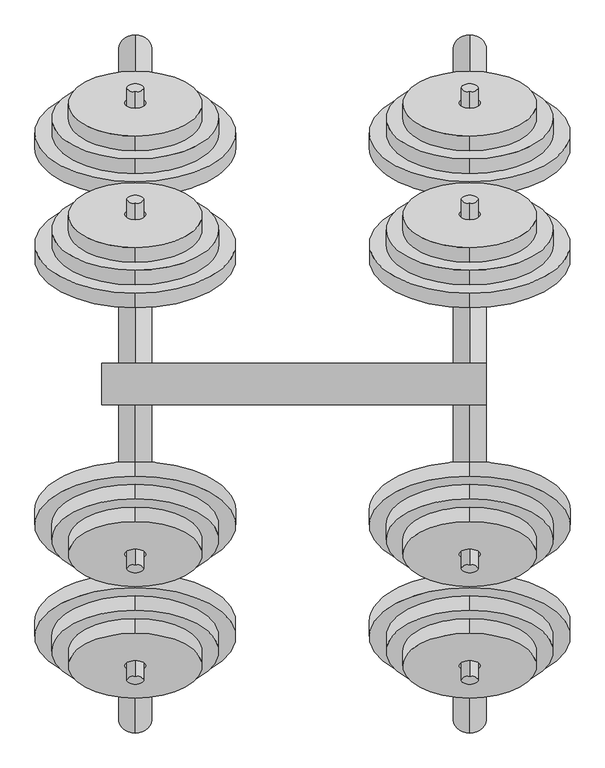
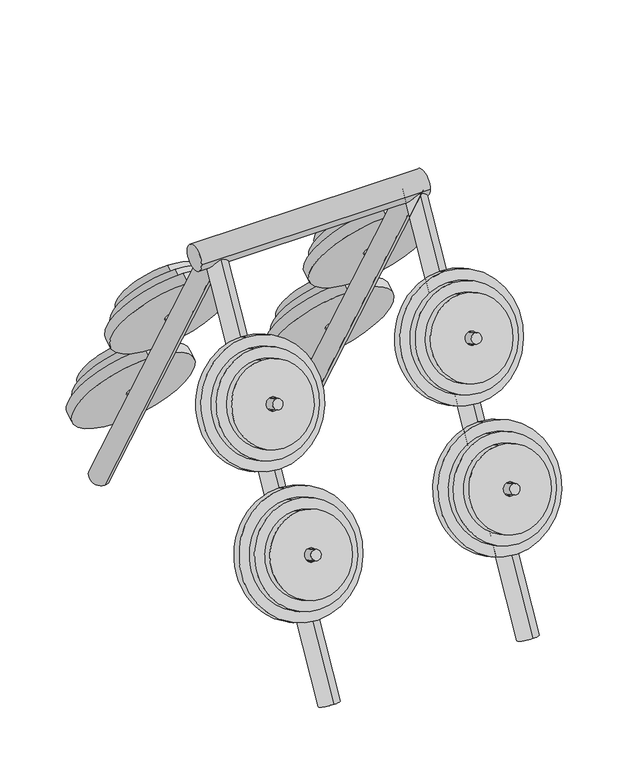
"""IFC4 building model written with IfcOpenShell, lengths in millimetres: proxy geometry, Weights-Multiple : Weights-Multiple."""

from ifc_helpers import new_model, si_unit, point, frame, frame_2d, origin, place, context, project, spatial, circle_curve, trimmed, segment, composite_curve, outline, extrude, source, transform, mapped, element, save


def generic_models_a89b188b(model_context):
    return source(origin(), model_context, "Body", "SweptSolid", [
        extrude(outline(composite_curve([segment(trimmed(circle_curve(frame_2d((0.0, -101.5999999)), 101.6), [point((0.0, -203.2))], [point((0.0, 0.0))], False, "CARTESIAN"), True, "CONTINUOUS"), segment(trimmed(circle_curve(frame_2d((0.0, -101.5999999)), 101.6), [point((0.0, 0.0))], [point((0.0, -203.2))], False, "CARTESIAN"), True, "CONTINUOUS")], self_intersect=False), holes=[composite_curve([segment(trimmed(circle_curve(frame_2d((0.0, -101.5999999)), 15.875), [point((0.0, -117.475))], [point((0.0, -85.725))], True, "CARTESIAN"), True, "CONTINUOUS"), segment(trimmed(circle_curve(frame_2d((0.0, -101.5999999)), 15.875), [point((0.0, -85.725))], [point((0.0, -117.475))], True, "CARTESIAN"), True, "CONTINUOUS")], self_intersect=False)]), frame((508.0, -356.2616179, 430.0344911), z_axis=(0.0, -0.8741572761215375, 0.48564293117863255), x_axis=(1.0, 0.0, 0.0)), (0.0, 0.0, 1.0), 25.4),
        extrude(outline(composite_curve([segment(trimmed(circle_curve(frame_2d((0.0, -127.0)), 127.0), [point((0.0, -254.0))], [point((0.0, 0.0))], False, "CARTESIAN"), True, "CONTINUOUS"), segment(trimmed(circle_curve(frame_2d((0.0, -127.0)), 127.0), [point((0.0, 0.0))], [point((0.0, -254.0))], False, "CARTESIAN"), True, "CONTINUOUS")], self_intersect=False), holes=[composite_curve([segment(trimmed(circle_curve(frame_2d((0.0, -127.0)), 15.875), [point((0.0, -142.875))], [point((0.0, -111.125))], True, "CARTESIAN"), True, "CONTINUOUS"), segment(trimmed(circle_curve(frame_2d((0.0, -127.0)), 15.875), [point((0.0, -111.125))], [point((0.0, -142.875))], True, "CARTESIAN"), True, "CONTINUOUS")], self_intersect=False)]), frame((508.0, -321.7226926, 439.9027555), z_axis=(0.0, -0.8741572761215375, 0.48564293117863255), x_axis=(1.0, 0.0, 0.0)), (0.0, 0.0, 1.0), 25.4),
        extrude(outline(composite_curve([segment(trimmed(circle_curve(frame_2d((0.0, -152.4)), 152.4), [point((0.0, -304.8))], [point((0.0, 0.0))], False, "CARTESIAN"), True, "CONTINUOUS"), segment(trimmed(circle_curve(frame_2d((0.0, -152.4)), 152.4), [point((0.0, 0.0))], [point((0.0, -304.8))], False, "CARTESIAN"), True, "CONTINUOUS")], self_intersect=False), holes=[composite_curve([segment(trimmed(circle_curve(frame_2d((0.0, -152.4)), 15.875), [point((0.0, -168.275))], [point((0.0, -136.525))], True, "CARTESIAN"), True, "CONTINUOUS"), segment(trimmed(circle_curve(frame_2d((0.0, -152.4)), 15.875), [point((0.0, -136.525))], [point((0.0, -168.275))], True, "CARTESIAN"), True, "CONTINUOUS")], self_intersect=False)]), frame((508.0, -287.1837674, 449.7710199), z_axis=(0.0, -0.8741572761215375, 0.48564293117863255), x_axis=(1.0, 0.0, 0.0)), (0.0, 0.0, 1.0), 25.4),
        extrude(outline(composite_curve([segment(trimmed(circle_curve(frame_2d((0.0, -101.5999999)), 101.6), [point((0.0, -203.2))], [point((0.0, 0.0))], False, "CARTESIAN"), True, "CONTINUOUS"), segment(trimmed(circle_curve(frame_2d((0.0, -101.5999999)), 101.6), [point((0.0, 0.0))], [point((0.0, -203.2))], False, "CARTESIAN"), True, "CONTINUOUS")], self_intersect=False), holes=[composite_curve([segment(trimmed(circle_curve(frame_2d((0.0, -101.5999999)), 15.875), [point((0.0, -117.475))], [point((0.0, -85.725))], True, "CARTESIAN"), True, "CONTINUOUS"), segment(trimmed(circle_curve(frame_2d((0.0, -101.5999999)), 15.875), [point((0.0, -85.725))], [point((0.0, -117.475))], True, "CARTESIAN"), True, "CONTINUOUS")], self_intersect=False)]), frame((508.0, -186.9282846, 734.8344911), z_axis=(0.0, -0.8741572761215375, 0.48564293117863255), x_axis=(1.0, 0.0, 0.0)), (0.0, 0.0, 1.0), 25.4),
        extrude(outline(composite_curve([segment(trimmed(circle_curve(frame_2d((0.0, -127.0)), 127.0), [point((0.0, -254.0))], [point((0.0, 0.0))], False, "CARTESIAN"), True, "CONTINUOUS"), segment(trimmed(circle_curve(frame_2d((0.0, -127.0)), 127.0), [point((0.0, 0.0))], [point((0.0, -254.0))], False, "CARTESIAN"), True, "CONTINUOUS")], self_intersect=False), holes=[composite_curve([segment(trimmed(circle_curve(frame_2d((0.0, -127.0)), 15.875), [point((0.0, -142.875))], [point((0.0, -111.125))], True, "CARTESIAN"), True, "CONTINUOUS"), segment(trimmed(circle_curve(frame_2d((0.0, -127.0)), 15.875), [point((0.0, -111.125))], [point((0.0, -142.875))], True, "CARTESIAN"), True, "CONTINUOUS")], self_intersect=False)]), frame((508.0, -152.3893593, 744.7027555), z_axis=(0.0, -0.8741572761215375, 0.48564293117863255), x_axis=(1.0, 0.0, 0.0)), (0.0, 0.0, 1.0), 25.4),
        extrude(outline(composite_curve([segment(trimmed(circle_curve(frame_2d((0.0, -152.4)), 152.4), [point((0.0, -304.8000001))], [point((0.0, 0.0))], False, "CARTESIAN"), True, "CONTINUOUS"), segment(trimmed(circle_curve(frame_2d((0.0, -152.4)), 152.4), [point((0.0, 0.0))], [point((0.0, -304.8000001))], False, "CARTESIAN"), True, "CONTINUOUS")], self_intersect=False), holes=[composite_curve([segment(trimmed(circle_curve(frame_2d((0.0, -152.4)), 15.875), [point((0.0, -168.2750001))], [point((0.0, -136.5250001))], True, "CARTESIAN"), True, "CONTINUOUS"), segment(trimmed(circle_curve(frame_2d((0.0, -152.4)), 15.875), [point((0.0, -136.5250001))], [point((0.0, -168.2750001))], True, "CARTESIAN"), True, "CONTINUOUS")], self_intersect=False)]), frame((508.0, -117.850434, 754.5710199), z_axis=(0.0, -0.8741572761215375, 0.48564293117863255), x_axis=(1.0, 0.0, 0.0)), (0.0, 0.0, 1.0), 25.4),
        extrude(outline(composite_curve([segment(trimmed(circle_curve(frame_2d((0.0, 12.7)), 12.7), [point((0.0, 0.0))], [point((0.0, 25.4))], False, "CARTESIAN"), True, "CONTINUOUS"), segment(trimmed(circle_curve(frame_2d((0.0, 12.7)), 12.7), [point((0.0, 25.4))], [point((0.0, 0.0))], False, "CARTESIAN"), True, "CONTINUOUS")], self_intersect=False)), frame((508.0, -344.8343319, 293.6982026), z_axis=(0.0, -0.8741572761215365, 0.4856429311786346), x_axis=(1.0, 0.0, 0.0)), (0.0, 0.0, 1.0), 127.0),
        extrude(outline(composite_curve([segment(trimmed(circle_curve(frame_2d((0.0, 12.6766186)), 12.6766186), [point((0.0, 0.0))], [point((0.0, 25.3532372))], False, "CARTESIAN"), True, "CONTINUOUS"), segment(trimmed(circle_curve(frame_2d((0.0, 12.6766186)), 12.6766186), [point((0.0, 25.3532372))], [point((0.0, 0.0))], False, "CARTESIAN"), True, "CONTINUOUS")], self_intersect=False)), frame((508.0, -175.4896435, 598.5186416), z_axis=(0.0, -0.8741572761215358, 0.4856429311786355), x_axis=(1.0, 0.0, 0.0)), (0.0, 0.0, 1.0), 127.0),
        extrude(outline(composite_curve([segment(trimmed(circle_curve(frame_2d((0.0, 25.2855633)), 25.2855633), [point((0.0, 50.5711266))], [point((0.0, 0.0))], False, "CARTESIAN"), True, "CONTINUOUS"), segment(trimmed(circle_curve(frame_2d((0.0, 25.2855633)), 25.2855633), [point((0.0, 0.0))], [point((0.0, 50.5711266))], False, "CARTESIAN"), True, "CONTINUOUS")], self_intersect=False)), frame((508.0, -530.1035591, 12.2797551), z_axis=(0.0, 0.48564293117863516, 0.874157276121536), x_axis=(1.0, 0.0, 0.0)), (0.0, 0.0, 1.0), 1046.0360223),
        extrude(outline(composite_curve([segment(trimmed(circle_curve(frame_2d((0.0, -101.6)), 101.6), [point((0.0, -203.2))], [point((0.0, 0.0))], False, "CARTESIAN"), True, "CONTINUOUS"), segment(trimmed(circle_curve(frame_2d((0.0, -101.6)), 101.6), [point((0.0, 0.0))], [point((0.0, -203.2))], False, "CARTESIAN"), True, "CONTINUOUS")], self_intersect=False), holes=[composite_curve([segment(trimmed(circle_curve(frame_2d((0.0, -99.2545749)), 16.0172479), [point((0.0, -115.2718228))], [point((0.0, -83.237327))], True, "CARTESIAN"), True, "CONTINUOUS"), segment(trimmed(circle_curve(frame_2d((0.0, -99.2545749)), 16.0172479), [point((0.0, -83.237327))], [point((0.0, -115.2718228))], True, "CARTESIAN"), True, "CONTINUOUS")], self_intersect=False)]), frame((508.0, 452.8645476, 256.1492177), z_axis=(0.0, 0.8741572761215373, 0.4856429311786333), x_axis=(1.0, 0.0, 0.0)), (0.0, 0.0, 1.0), 25.4),
        extrude(outline(composite_curve([segment(trimmed(circle_curve(frame_2d((0.0, -127.0)), 127.0), [point((0.0, -254.0))], [point((0.0, 0.0))], False, "CARTESIAN"), True, "CONTINUOUS"), segment(trimmed(circle_curve(frame_2d((0.0, -127.0)), 127.0), [point((0.0, 0.0))], [point((0.0, -254.0))], False, "CARTESIAN"), True, "CONTINUOUS")], self_intersect=False), holes=[composite_curve([segment(trimmed(circle_curve(frame_2d((0.0, -124.6545747)), 16.0172479), [point((0.0, -140.6718226))], [point((0.0, -108.6373269))], True, "CARTESIAN"), True, "CONTINUOUS"), segment(trimmed(circle_curve(frame_2d((0.0, -124.6545747)), 16.0172479), [point((0.0, -108.6373269))], [point((0.0, -140.6718226))], True, "CARTESIAN"), True, "CONTINUOUS")], self_intersect=False)]), frame((508.0, 442.9962832, 221.6102925), z_axis=(0.0, 0.8741572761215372, 0.4856429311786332), x_axis=(1.0, 0.0, 0.0)), (0.0, 0.0, 1.0), 25.4),
        extrude(outline(composite_curve([segment(trimmed(circle_curve(frame_2d((0.0, -152.4)), 152.4), [point((0.0, -304.8))], [point((0.0, 0.0))], False, "CARTESIAN"), True, "CONTINUOUS"), segment(trimmed(circle_curve(frame_2d((0.0, -152.4)), 152.4), [point((0.0, 0.0))], [point((0.0, -304.8))], False, "CARTESIAN"), True, "CONTINUOUS")], self_intersect=False), holes=[composite_curve([segment(trimmed(circle_curve(frame_2d((0.0, -150.0545748)), 16.0172479), [point((0.0, -166.0718227))], [point((0.0, -134.0373269))], True, "CARTESIAN"), True, "CONTINUOUS"), segment(trimmed(circle_curve(frame_2d((0.0, -150.0545748)), 16.0172479), [point((0.0, -134.0373269))], [point((0.0, -166.0718227))], True, "CARTESIAN"), True, "CONTINUOUS")], self_intersect=False)]), frame((508.0, 433.1280188, 187.0713672), z_axis=(0.0, 0.8741572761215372, 0.4856429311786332), x_axis=(1.0, 0.0, 0.0)), (0.0, 0.0, 1.0), 25.4),
        extrude(outline(composite_curve([segment(trimmed(circle_curve(frame_2d((0.0, -101.6)), 101.6), [point((0.0, -203.2))], [point((0.0, 0.0))], False, "CARTESIAN"), True, "CONTINUOUS"), segment(trimmed(circle_curve(frame_2d((0.0, -101.6)), 101.6), [point((0.0, 0.0))], [point((0.0, -203.2))], False, "CARTESIAN"), True, "CONTINUOUS")], self_intersect=False), holes=[composite_curve([segment(trimmed(circle_curve(frame_2d((0.0, -99.2545748)), 16.0172479), [point((0.0, -115.2718227))], [point((0.0, -83.2373269))], True, "CARTESIAN"), True, "CONTINUOUS"), segment(trimmed(circle_curve(frame_2d((0.0, -99.2545748)), 16.0172479), [point((0.0, -83.2373269))], [point((0.0, -115.2718227))], True, "CARTESIAN"), True, "CONTINUOUS")], self_intersect=False)]), frame((508.0, 283.5312142, 560.9492177), z_axis=(0.0, 0.8741572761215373, 0.4856429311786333), x_axis=(1.0, 0.0, 0.0)), (0.0, 0.0, 1.0), 25.4),
        extrude(outline(composite_curve([segment(trimmed(circle_curve(frame_2d((0.0, -127.0)), 127.0), [point((0.0, -254.0))], [point((0.0, 0.0))], False, "CARTESIAN"), True, "CONTINUOUS"), segment(trimmed(circle_curve(frame_2d((0.0, -127.0)), 127.0), [point((0.0, 0.0))], [point((0.0, -254.0))], False, "CARTESIAN"), True, "CONTINUOUS")], self_intersect=False), holes=[composite_curve([segment(trimmed(circle_curve(frame_2d((0.0, -124.6545747)), 16.0172479), [point((0.0, -140.6718226))], [point((0.0, -108.6373269))], True, "CARTESIAN"), True, "CONTINUOUS"), segment(trimmed(circle_curve(frame_2d((0.0, -124.6545747)), 16.0172479), [point((0.0, -108.6373269))], [point((0.0, -140.6718226))], True, "CARTESIAN"), True, "CONTINUOUS")], self_intersect=False)]), frame((508.0, 273.6629499, 526.4102925), z_axis=(0.0, 0.8741572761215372, 0.4856429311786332), x_axis=(1.0, 0.0, 0.0)), (0.0, 0.0, 1.0), 25.4),
        extrude(outline(composite_curve([segment(trimmed(circle_curve(frame_2d((0.0, -152.4)), 152.4), [point((0.0, -304.8))], [point((0.0, 0.0))], False, "CARTESIAN"), True, "CONTINUOUS"), segment(trimmed(circle_curve(frame_2d((0.0, -152.4)), 152.4), [point((0.0, 0.0))], [point((0.0, -304.8))], False, "CARTESIAN"), True, "CONTINUOUS")], self_intersect=False), holes=[composite_curve([segment(trimmed(circle_curve(frame_2d((0.0, -150.0545748)), 16.0172479), [point((0.0, -166.0718227))], [point((0.0, -134.0373269))], True, "CARTESIAN"), True, "CONTINUOUS"), segment(trimmed(circle_curve(frame_2d((0.0, -150.0545748)), 16.0172479), [point((0.0, -134.0373269))], [point((0.0, -166.0718227))], True, "CARTESIAN"), True, "CONTINUOUS")], self_intersect=False)]), frame((508.0, 263.7946855, 491.8713672), z_axis=(0.0, 0.8741572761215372, 0.4856429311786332), x_axis=(1.0, 0.0, 0.0)), (0.0, 0.0, 1.0), 25.4),
        extrude(outline(composite_curve([segment(trimmed(circle_curve(frame_2d((0.0, 12.7)), 12.7), [point((0.0, 25.4))], [point((0.0, 0.0))], False, "CARTESIAN"), True, "CONTINUOUS"), segment(trimmed(circle_curve(frame_2d((0.0, 12.7)), 12.7), [point((0.0, 0.0))], [point((0.0, 25.4))], False, "CARTESIAN"), True, "CONTINUOUS")], self_intersect=False)), frame((508.0, 332.4990014, 315.9017974), z_axis=(0.0, 0.8741572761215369, 0.48564293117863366), x_axis=(1.0, 0.0, 0.0)), (0.0, 0.0, 1.0), 127.0),
        extrude(outline(composite_curve([segment(trimmed(circle_curve(frame_2d((0.0, 12.6766186)), 12.6766186), [point((0.0, 25.3532372))], [point((0.0, 0.0))], False, "CARTESIAN"), True, "CONTINUOUS"), segment(trimmed(circle_curve(frame_2d((0.0, 12.6766186)), 12.6766186), [point((0.0, 0.0))], [point((0.0, 25.3532372))], False, "CARTESIAN"), True, "CONTINUOUS")], self_intersect=False)), frame((508.0, 163.1770231, 620.6813584), z_axis=(0.0, 0.8741572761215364, 0.48564293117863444), x_axis=(1.0, 0.0, 0.0)), (0.0, 0.0, 1.0), 127.0),
        extrude(outline(composite_curve([segment(trimmed(circle_curve(frame_2d((0.0, 25.2855633)), 25.2855633), [point((0.0, 0.0))], [point((0.0, 50.5711266))], False, "CARTESIAN"), True, "CONTINUOUS"), segment(trimmed(circle_curve(frame_2d((0.0, 25.2855633)), 25.2855633), [point((0.0, 50.5711266))], [point((0.0, 0.0))], False, "CARTESIAN"), True, "CONTINUOUS")], self_intersect=False)), frame((508.0, 485.8964409, -12.2797551), z_axis=(0.0, -0.48564293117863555, 0.8741572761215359), x_axis=(1.0, 0.0, 0.0)), (0.0, 0.0, 1.0), 1046.0360223),
        extrude(outline(composite_curve([segment(trimmed(circle_curve(frame_2d((0.0, -101.5999999)), 101.6), [point((0.0, -203.2))], [point((0.0, 0.0))], False, "CARTESIAN"), True, "CONTINUOUS"), segment(trimmed(circle_curve(frame_2d((0.0, -101.5999999)), 101.6), [point((0.0, 0.0))], [point((0.0, -203.2))], False, "CARTESIAN"), True, "CONTINUOUS")], self_intersect=False), holes=[composite_curve([segment(trimmed(circle_curve(frame_2d((0.0, -101.5999999)), 15.875), [point((0.0, -117.475))], [point((0.0, -85.725))], True, "CARTESIAN"), True, "CONTINUOUS"), segment(trimmed(circle_curve(frame_2d((0.0, -101.5999999)), 15.875), [point((0.0, -85.725))], [point((0.0, -117.475))], True, "CARTESIAN"), True, "CONTINUOUS")], self_intersect=False)]), frame((0.0, -356.2616179, 430.0344911), z_axis=(0.0, -0.8741572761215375, 0.48564293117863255), x_axis=(1.0, 0.0, 0.0)), (0.0, 0.0, 1.0), 25.4),
        extrude(outline(composite_curve([segment(trimmed(circle_curve(frame_2d((0.0, -127.0)), 127.0), [point((0.0, -254.0))], [point((0.0, 0.0))], False, "CARTESIAN"), True, "CONTINUOUS"), segment(trimmed(circle_curve(frame_2d((0.0, -127.0)), 127.0), [point((0.0, 0.0))], [point((0.0, -254.0))], False, "CARTESIAN"), True, "CONTINUOUS")], self_intersect=False), holes=[composite_curve([segment(trimmed(circle_curve(frame_2d((0.0, -127.0)), 15.875), [point((0.0, -142.875))], [point((0.0, -111.125))], True, "CARTESIAN"), True, "CONTINUOUS"), segment(trimmed(circle_curve(frame_2d((0.0, -127.0)), 15.875), [point((0.0, -111.125))], [point((0.0, -142.875))], True, "CARTESIAN"), True, "CONTINUOUS")], self_intersect=False)]), frame((0.0, -321.7226926, 439.9027555), z_axis=(0.0, -0.8741572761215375, 0.48564293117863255), x_axis=(1.0, 0.0, 0.0)), (0.0, 0.0, 1.0), 25.4),
        extrude(outline(composite_curve([segment(trimmed(circle_curve(frame_2d((0.0, -152.4)), 152.4), [point((0.0, -304.8))], [point((0.0, 0.0))], False, "CARTESIAN"), True, "CONTINUOUS"), segment(trimmed(circle_curve(frame_2d((0.0, -152.4)), 152.4), [point((0.0, 0.0))], [point((0.0, -304.8))], False, "CARTESIAN"), True, "CONTINUOUS")], self_intersect=False), holes=[composite_curve([segment(trimmed(circle_curve(frame_2d((0.0, -152.4)), 15.875), [point((0.0, -168.275))], [point((0.0, -136.525))], True, "CARTESIAN"), True, "CONTINUOUS"), segment(trimmed(circle_curve(frame_2d((0.0, -152.4)), 15.875), [point((0.0, -136.525))], [point((0.0, -168.275))], True, "CARTESIAN"), True, "CONTINUOUS")], self_intersect=False)]), frame((0.0, -287.1837674, 449.7710199), z_axis=(0.0, -0.8741572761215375, 0.48564293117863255), x_axis=(1.0, 0.0, 0.0)), (0.0, 0.0, 1.0), 25.4),
        extrude(outline(composite_curve([segment(trimmed(circle_curve(frame_2d((0.0, -101.5999999)), 101.6), [point((0.0, -203.2))], [point((0.0, 0.0))], False, "CARTESIAN"), True, "CONTINUOUS"), segment(trimmed(circle_curve(frame_2d((0.0, -101.5999999)), 101.6), [point((0.0, 0.0))], [point((0.0, -203.2))], False, "CARTESIAN"), True, "CONTINUOUS")], self_intersect=False), holes=[composite_curve([segment(trimmed(circle_curve(frame_2d((0.0, -101.5999999)), 15.875), [point((0.0, -117.475))], [point((0.0, -85.725))], True, "CARTESIAN"), True, "CONTINUOUS"), segment(trimmed(circle_curve(frame_2d((0.0, -101.5999999)), 15.875), [point((0.0, -85.725))], [point((0.0, -117.475))], True, "CARTESIAN"), True, "CONTINUOUS")], self_intersect=False)]), frame((0.0, -186.9282846, 734.8344911), z_axis=(0.0, -0.8741572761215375, 0.48564293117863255), x_axis=(1.0, 0.0, 0.0)), (0.0, 0.0, 1.0), 25.4),
        extrude(outline(composite_curve([segment(trimmed(circle_curve(frame_2d((0.0, -127.0)), 127.0), [point((0.0, -254.0))], [point((0.0, 0.0))], False, "CARTESIAN"), True, "CONTINUOUS"), segment(trimmed(circle_curve(frame_2d((0.0, -127.0)), 127.0), [point((0.0, 0.0))], [point((0.0, -254.0))], False, "CARTESIAN"), True, "CONTINUOUS")], self_intersect=False), holes=[composite_curve([segment(trimmed(circle_curve(frame_2d((0.0, -127.0)), 15.875), [point((0.0, -142.875))], [point((0.0, -111.125))], True, "CARTESIAN"), True, "CONTINUOUS"), segment(trimmed(circle_curve(frame_2d((0.0, -127.0)), 15.875), [point((0.0, -111.125))], [point((0.0, -142.875))], True, "CARTESIAN"), True, "CONTINUOUS")], self_intersect=False)]), frame((0.0, -152.3893593, 744.7027555), z_axis=(0.0, -0.8741572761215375, 0.48564293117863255), x_axis=(1.0, 0.0, 0.0)), (0.0, 0.0, 1.0), 25.4),
        extrude(outline(composite_curve([segment(trimmed(circle_curve(frame_2d((0.0, -152.4)), 152.4), [point((0.0, -304.8000001))], [point((0.0, 0.0))], False, "CARTESIAN"), True, "CONTINUOUS"), segment(trimmed(circle_curve(frame_2d((0.0, -152.4)), 152.4), [point((0.0, 0.0))], [point((0.0, -304.8000001))], False, "CARTESIAN"), True, "CONTINUOUS")], self_intersect=False), holes=[composite_curve([segment(trimmed(circle_curve(frame_2d((0.0, -152.4)), 15.875), [point((0.0, -168.2750001))], [point((0.0, -136.5250001))], True, "CARTESIAN"), True, "CONTINUOUS"), segment(trimmed(circle_curve(frame_2d((0.0, -152.4)), 15.875), [point((0.0, -136.5250001))], [point((0.0, -168.2750001))], True, "CARTESIAN"), True, "CONTINUOUS")], self_intersect=False)]), frame((0.0, -117.850434, 754.5710199), z_axis=(0.0, -0.8741572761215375, 0.48564293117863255), x_axis=(1.0, 0.0, 0.0)), (0.0, 0.0, 1.0), 25.4),
        extrude(outline(composite_curve([segment(trimmed(circle_curve(frame_2d((0.0, -101.6)), 101.6), [point((0.0, -203.2))], [point((0.0, 0.0))], False, "CARTESIAN"), True, "CONTINUOUS"), segment(trimmed(circle_curve(frame_2d((0.0, -101.6)), 101.6), [point((0.0, 0.0))], [point((0.0, -203.2))], False, "CARTESIAN"), True, "CONTINUOUS")], self_intersect=False), holes=[composite_curve([segment(trimmed(circle_curve(frame_2d((0.0, -99.2545749)), 16.0172479), [point((0.0, -115.2718228))], [point((0.0, -83.237327))], True, "CARTESIAN"), True, "CONTINUOUS"), segment(trimmed(circle_curve(frame_2d((0.0, -99.2545749)), 16.0172479), [point((0.0, -83.237327))], [point((0.0, -115.2718228))], True, "CARTESIAN"), True, "CONTINUOUS")], self_intersect=False)]), frame((0.0, 452.8645476, 256.1492177), z_axis=(0.0, 0.8741572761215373, 0.4856429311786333), x_axis=(1.0, 0.0, 0.0)), (0.0, 0.0, 1.0), 25.4),
        extrude(outline(composite_curve([segment(trimmed(circle_curve(frame_2d((0.0, -127.0)), 127.0), [point((0.0, -254.0))], [point((0.0, 0.0))], False, "CARTESIAN"), True, "CONTINUOUS"), segment(trimmed(circle_curve(frame_2d((0.0, -127.0)), 127.0), [point((0.0, 0.0))], [point((0.0, -254.0))], False, "CARTESIAN"), True, "CONTINUOUS")], self_intersect=False), holes=[composite_curve([segment(trimmed(circle_curve(frame_2d((0.0, -124.6545747)), 16.0172479), [point((0.0, -140.6718226))], [point((0.0, -108.6373269))], True, "CARTESIAN"), True, "CONTINUOUS"), segment(trimmed(circle_curve(frame_2d((0.0, -124.6545747)), 16.0172479), [point((0.0, -108.6373269))], [point((0.0, -140.6718226))], True, "CARTESIAN"), True, "CONTINUOUS")], self_intersect=False)]), frame((0.0, 442.9962832, 221.6102925), z_axis=(0.0, 0.8741572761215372, 0.4856429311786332), x_axis=(1.0, 0.0, 0.0)), (0.0, 0.0, 1.0), 25.4),
        extrude(outline(composite_curve([segment(trimmed(circle_curve(frame_2d((0.0, -152.4)), 152.4), [point((0.0, -304.8))], [point((0.0, 0.0))], False, "CARTESIAN"), True, "CONTINUOUS"), segment(trimmed(circle_curve(frame_2d((0.0, -152.4)), 152.4), [point((0.0, 0.0))], [point((0.0, -304.8))], False, "CARTESIAN"), True, "CONTINUOUS")], self_intersect=False), holes=[composite_curve([segment(trimmed(circle_curve(frame_2d((0.0, -150.0545748)), 16.0172479), [point((0.0, -166.0718227))], [point((0.0, -134.0373269))], True, "CARTESIAN"), True, "CONTINUOUS"), segment(trimmed(circle_curve(frame_2d((0.0, -150.0545748)), 16.0172479), [point((0.0, -134.0373269))], [point((0.0, -166.0718227))], True, "CARTESIAN"), True, "CONTINUOUS")], self_intersect=False)]), frame((0.0, 433.1280188, 187.0713672), z_axis=(0.0, 0.8741572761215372, 0.4856429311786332), x_axis=(1.0, 0.0, 0.0)), (0.0, 0.0, 1.0), 25.4),
        extrude(outline(composite_curve([segment(trimmed(circle_curve(frame_2d((0.0, -101.6)), 101.6), [point((0.0, -203.2))], [point((0.0, 0.0))], False, "CARTESIAN"), True, "CONTINUOUS"), segment(trimmed(circle_curve(frame_2d((0.0, -101.6)), 101.6), [point((0.0, 0.0))], [point((0.0, -203.2))], False, "CARTESIAN"), True, "CONTINUOUS")], self_intersect=False), holes=[composite_curve([segment(trimmed(circle_curve(frame_2d((0.0, -99.2545748)), 16.0172479), [point((0.0, -115.2718227))], [point((0.0, -83.2373269))], True, "CARTESIAN"), True, "CONTINUOUS"), segment(trimmed(circle_curve(frame_2d((0.0, -99.2545748)), 16.0172479), [point((0.0, -83.2373269))], [point((0.0, -115.2718227))], True, "CARTESIAN"), True, "CONTINUOUS")], self_intersect=False)]), frame((0.0, 283.5312142, 560.9492177), z_axis=(0.0, 0.8741572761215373, 0.4856429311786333), x_axis=(1.0, 0.0, 0.0)), (0.0, 0.0, 1.0), 25.4),
        extrude(outline(composite_curve([segment(trimmed(circle_curve(frame_2d((0.0, -127.0)), 127.0), [point((0.0, -254.0))], [point((0.0, 0.0))], False, "CARTESIAN"), True, "CONTINUOUS"), segment(trimmed(circle_curve(frame_2d((0.0, -127.0)), 127.0), [point((0.0, 0.0))], [point((0.0, -254.0))], False, "CARTESIAN"), True, "CONTINUOUS")], self_intersect=False), holes=[composite_curve([segment(trimmed(circle_curve(frame_2d((0.0, -124.6545747)), 16.0172479), [point((0.0, -140.6718226))], [point((0.0, -108.6373269))], True, "CARTESIAN"), True, "CONTINUOUS"), segment(trimmed(circle_curve(frame_2d((0.0, -124.6545747)), 16.0172479), [point((0.0, -108.6373269))], [point((0.0, -140.6718226))], True, "CARTESIAN"), True, "CONTINUOUS")], self_intersect=False)]), frame((0.0, 273.6629499, 526.4102925), z_axis=(0.0, 0.8741572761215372, 0.4856429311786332), x_axis=(1.0, 0.0, 0.0)), (0.0, 0.0, 1.0), 25.4),
        extrude(outline(composite_curve([segment(trimmed(circle_curve(frame_2d((0.0, -152.4)), 152.4), [point((0.0, -304.8))], [point((0.0, 0.0))], False, "CARTESIAN"), True, "CONTINUOUS"), segment(trimmed(circle_curve(frame_2d((0.0, -152.4)), 152.4), [point((0.0, 0.0))], [point((0.0, -304.8))], False, "CARTESIAN"), True, "CONTINUOUS")], self_intersect=False), holes=[composite_curve([segment(trimmed(circle_curve(frame_2d((0.0, -150.0545748)), 16.0172479), [point((0.0, -166.0718227))], [point((0.0, -134.0373269))], True, "CARTESIAN"), True, "CONTINUOUS"), segment(trimmed(circle_curve(frame_2d((0.0, -150.0545748)), 16.0172479), [point((0.0, -134.0373269))], [point((0.0, -166.0718227))], True, "CARTESIAN"), True, "CONTINUOUS")], self_intersect=False)]), frame((0.0, 263.7946855, 491.8713672), z_axis=(0.0, 0.8741572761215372, 0.4856429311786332), x_axis=(1.0, 0.0, 0.0)), (0.0, 0.0, 1.0), 25.4),
        extrude(outline(composite_curve([segment(trimmed(circle_curve(frame_2d((0.0, 12.7)), 12.7), [point((0.0, 0.0))], [point((0.0, 25.4))], False, "CARTESIAN"), True, "CONTINUOUS"), segment(trimmed(circle_curve(frame_2d((0.0, 12.7)), 12.7), [point((0.0, 25.4))], [point((0.0, 0.0))], False, "CARTESIAN"), True, "CONTINUOUS")], self_intersect=False)), frame((0.0, -344.8343319, 293.6982026), z_axis=(0.0, -0.8741572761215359, 0.48564293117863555), x_axis=(1.0, 0.0, 0.0)), (0.0, 0.0, 1.0), 127.0),
        extrude(outline(composite_curve([segment(trimmed(circle_curve(frame_2d((0.0, 12.6766186)), 12.6766186), [point((0.0, 0.0))], [point((0.0, 25.3532372))], False, "CARTESIAN"), True, "CONTINUOUS"), segment(trimmed(circle_curve(frame_2d((0.0, 12.6766186)), 12.6766186), [point((0.0, 25.3532372))], [point((0.0, 0.0))], False, "CARTESIAN"), True, "CONTINUOUS")], self_intersect=False)), frame((0.0, -175.4896435, 598.5186416), z_axis=(0.0, -0.8741572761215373, 0.48564293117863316), x_axis=(1.0, 0.0, 0.0)), (0.0, 0.0, 1.0), 127.0),
        extrude(outline(composite_curve([segment(trimmed(circle_curve(frame_2d((0.0, 12.7)), 12.7), [point((0.0, 25.4))], [point((0.0, 0.0))], False, "CARTESIAN"), True, "CONTINUOUS"), segment(trimmed(circle_curve(frame_2d((0.0, 12.7)), 12.7), [point((0.0, 0.0))], [point((0.0, 25.4))], False, "CARTESIAN"), True, "CONTINUOUS")], self_intersect=False)), frame((0.0, 332.4990014, 315.9017974), z_axis=(0.0, 0.8741572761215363, 0.48564293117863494), x_axis=(1.0, 0.0, 0.0)), (0.0, 0.0, 1.0), 127.0),
        extrude(outline(composite_curve([segment(trimmed(circle_curve(frame_2d((0.0, 12.6766186)), 12.6766186), [point((0.0, 25.3532372))], [point((0.0, 0.0))], False, "CARTESIAN"), True, "CONTINUOUS"), segment(trimmed(circle_curve(frame_2d((0.0, 12.6766186)), 12.6766186), [point((0.0, 0.0))], [point((0.0, 25.3532372))], False, "CARTESIAN"), True, "CONTINUOUS")], self_intersect=False)), frame((0.0, 163.1770231, 620.6813584), z_axis=(0.0, 0.8741572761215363, 0.48564293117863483), x_axis=(1.0, 0.0, 0.0)), (0.0, 0.0, 1.0), 127.0),
        extrude(outline(composite_curve([segment(trimmed(circle_curve(frame_2d((0.0, 25.2855633)), 25.2855633), [point((0.0, 0.0))], [point((0.0, 50.5711266))], False, "CARTESIAN"), True, "CONTINUOUS"), segment(trimmed(circle_curve(frame_2d((0.0, 25.2855633)), 25.2855633), [point((0.0, 50.5711266))], [point((0.0, 0.0))], False, "CARTESIAN"), True, "CONTINUOUS")], self_intersect=False)), frame((0.0, 485.8964409, -12.2797551), z_axis=(0.0, -0.48564293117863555, 0.8741572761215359), x_axis=(1.0, 0.0, 0.0)), (0.0, 0.0, 1.0), 1046.0360223),
        extrude(outline(composite_curve([segment(trimmed(circle_curve(frame_2d((0.0, 25.2855633)), 25.2855633), [point((0.0, 50.5711266))], [point((0.0, 0.0))], False, "CARTESIAN"), True, "CONTINUOUS"), segment(trimmed(circle_curve(frame_2d((0.0, 25.2855633)), 25.2855633), [point((0.0, 0.0))], [point((0.0, 50.5711266))], False, "CARTESIAN"), True, "CONTINUOUS")], self_intersect=False)), frame((0.0, -530.1035591, 12.2797551), z_axis=(0.0, 0.48564293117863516, 0.874157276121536), x_axis=(1.0, 0.0, 0.0)), (0.0, 0.0, 1.0), 1046.0360223),
        extrude(outline(composite_curve([segment(trimmed(circle_curve(frame_2d((0.0, 914.4)), 31.75), [point((-31.75, 914.4))], [point((31.75, 914.4))], False, "CARTESIAN"), True, "CONTINUOUS"), segment(trimmed(circle_curve(frame_2d((0.0, 914.4)), 31.75), [point((31.75, 914.4))], [point((-31.75, 914.4))], False, "CARTESIAN"), True, "CONTINUOUS")], self_intersect=False)), frame((-50.8, 0.0, 0.0), z_axis=(1.0, 0.0, 0.0), x_axis=(0.0, 1.0, 0.0)), (0.0, 0.0, 1.0), 584.2),
    ])


if __name__ == "__main__":
    model = new_model("IFC4")
    model_context = context("Model", 3, world=origin())
    ifc_project = project(units=[si_unit("LENGTHUNIT", "METRE", prefix="MILLI")], contexts=[model_context])
    site = spatial("IfcSite", under=ifc_project)
    building = spatial("IfcBuilding", under=site)
    placement = place(None, origin())
    generic_models_shape = generic_models_a89b188b(model_context)
    element("IfcBuildingElementProxy", 1, Name="Weights-Multiple : Weights-Multiple", ObjectType="Weights-Multiple : Weights-Multiple", at=placement, inside=building, context=model_context, shape_type="MappedRepresentation", body=[
        mapped(generic_models_shape, transform((0.0, 0.0, 0.0), x_axis=(1.0, 0.0, 0.0), y_axis=(0.0, 1.0, 0.0), z_axis=(0.0, 0.0, 1.0))),
    ])
    save(model, "model.ifc")
